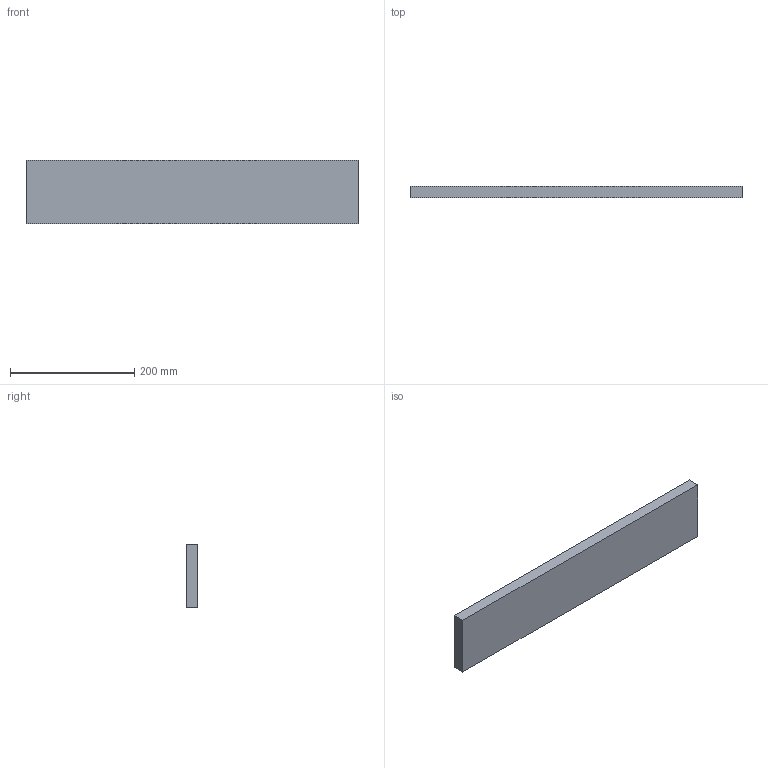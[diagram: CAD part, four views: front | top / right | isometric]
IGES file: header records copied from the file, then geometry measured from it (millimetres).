
Start section:  PTC IGES file: C:\Documents and Settings\Brad\Desktop\IGES\panel_top_co rner.igs
Global section: file name: C:\Documents and Settings\Brad\Desktop\IGES\panel_top_corner.igs; native system: Brad by Parametric Technology Corporation; preprocessor: 2003250; author: Unknown; organization: PTC; date: 040521.142625; units: inch
Bounding box: 533.4 x 19.05 x 101.6 mm (x, y, z)
Volume: 1032385 mm3; surface area: 132580.4 mm2
Topology: 1 solids, 1 shells, 6 faces, 12 edges, 8 vertices
Faces by surface type: bspline 6
